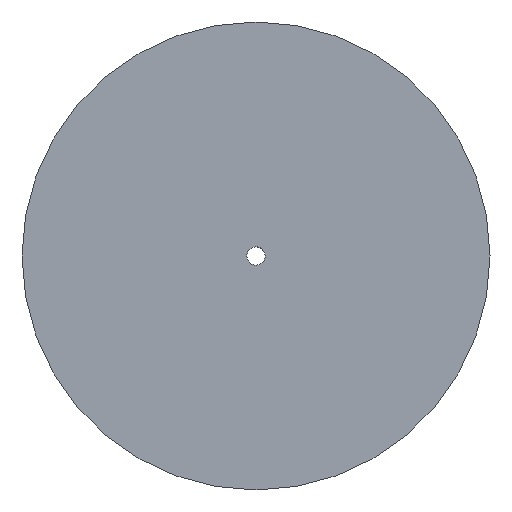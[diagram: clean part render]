
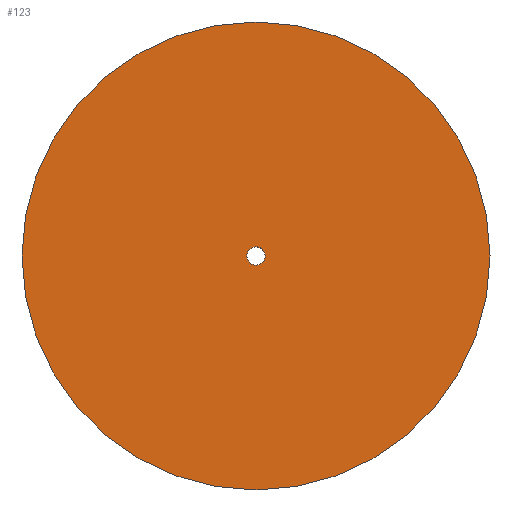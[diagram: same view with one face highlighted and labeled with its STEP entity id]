
A CAD part, top view. The second image highlights one B-rep face of the part: STEP entity #123.
In plain terms, the highlighted planar face has unit normal (0, 0, 1).
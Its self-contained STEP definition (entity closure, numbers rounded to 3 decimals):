
#62=CARTESIAN_POINT('Vertex',(-2.852,1.558,0.)) ;
#76=CARTESIAN_POINT('Vertex',(2.852,-1.558,0.)) ;
#79=CARTESIAN_POINT('Axis2P3D Location',(0.,0.,0.)) ;
#91=CARTESIAN_POINT('Axis2P3D Location',(0.,0.,0.)) ;
#96=CARTESIAN_POINT('Axis2P3D Location',(0.,0.,0.)) ;
#100=CARTESIAN_POINT('Vertex',(83.,0.,0.)) ;
#102=CARTESIAN_POINT('Vertex',(-83.,0.,0.)) ;
#105=CARTESIAN_POINT('Axis2P3D Location',(0.,0.,0.)) ;
#114=CARTESIAN_POINT('Axis2P3D Location',(0.,0.,0.)) ;
#80=DIRECTION('Axis2P3D Direction',(0.,-0.,-1.)) ;
#92=DIRECTION('Axis2P3D Direction',(0.,0.,1.)) ;
#93=DIRECTION('Axis2P3D XDirection',(1.,0.,0.)) ;
#97=DIRECTION('Axis2P3D Direction',(0.,0.,1.)) ;
#106=DIRECTION('Axis2P3D Direction',(0.,0.,1.)) ;
#115=DIRECTION('Axis2P3D Direction',(0.,0.,1.)) ;
#81=AXIS2_PLACEMENT_3D('Circle Axis2P3D',#79,#80,$) ;
#94=AXIS2_PLACEMENT_3D('Plane Axis2P3D',#91,#92,#93) ;
#98=AXIS2_PLACEMENT_3D('Circle Axis2P3D',#96,#97,$) ;
#107=AXIS2_PLACEMENT_3D('Circle Axis2P3D',#105,#106,$) ;
#116=AXIS2_PLACEMENT_3D('Circle Axis2P3D',#114,#115,$) ;
#111=ORIENTED_EDGE('',*,*,#104,.F.) ;
#112=ORIENTED_EDGE('',*,*,#109,.F.) ;
#120=ORIENTED_EDGE('',*,*,#118,.F.) ;
#121=ORIENTED_EDGE('',*,*,#83,.F.) ;
#122=FACE_BOUND('',#119,.T.) ;
#123=ADVANCED_FACE('PartBody',(#113,#122),#95,.T.) ;
#82=CIRCLE('generated circle',#81,3.25) ;
#99=CIRCLE('generated circle',#98,83.) ;
#108=CIRCLE('generated circle',#107,83.) ;
#117=CIRCLE('generated circle',#116,3.25) ;
#83=EDGE_CURVE('',#77,#63,#82,.F.) ;
#104=EDGE_CURVE('',#101,#103,#99,.F.) ;
#109=EDGE_CURVE('',#103,#101,#108,.F.) ;
#118=EDGE_CURVE('',#63,#77,#117,.T.) ;
#110=EDGE_LOOP('',(#111,#112)) ;
#119=EDGE_LOOP('',(#120,#121)) ;
#113=FACE_OUTER_BOUND('',#110,.T.) ;
#95=PLANE('',#94) ;
#63=VERTEX_POINT('',#62) ;
#77=VERTEX_POINT('',#76) ;
#101=VERTEX_POINT('',#100) ;
#103=VERTEX_POINT('',#102) ;
